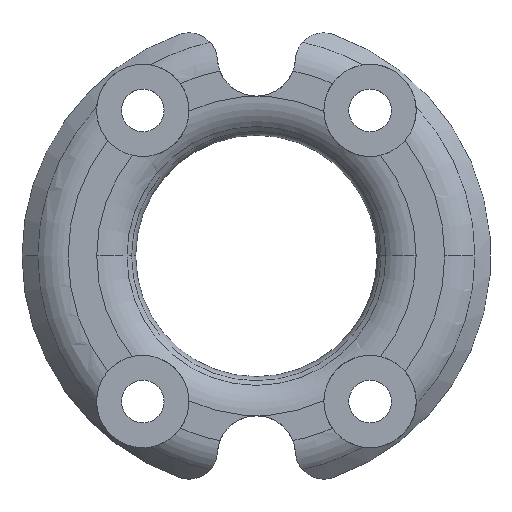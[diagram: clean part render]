
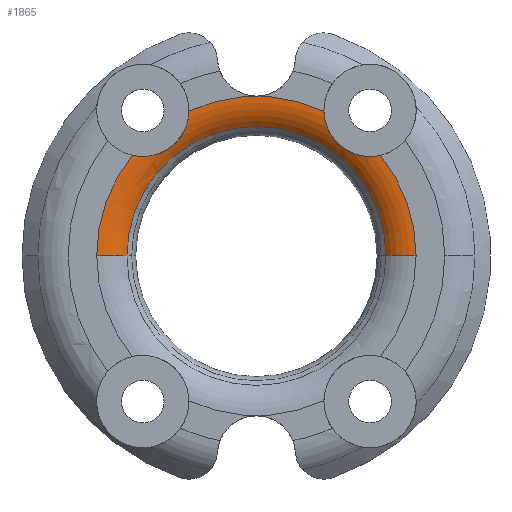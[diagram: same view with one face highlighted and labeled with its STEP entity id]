
A CAD part, top view. The second image highlights one B-rep face of the part: STEP entity #1865.
In plain terms, the highlighted toroidal (fillet/blend) face has major radius 11.243 mm and minor radius 3 mm.
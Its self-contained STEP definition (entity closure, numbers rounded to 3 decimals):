
#23 = CARTESIAN_POINT ( 'NONE',  ( 5.812, 7.841, 4.108 ) ) ;
#81 = ORIENTED_EDGE ( 'NONE', *, *, #293, .F. ) ;
#90 = CARTESIAN_POINT ( 'NONE',  ( 0., 0., 4.5 ) ) ;
#96 = CARTESIAN_POINT ( 'NONE',  ( -8.251, 6.998, 4.476 ) ) ;
#116 = DIRECTION ( 'NONE',  ( 1., 0., 0. ) ) ;
#158 = CARTESIAN_POINT ( 'NONE',  ( -4.902, 9.235, 4.401 ) ) ;
#181 = ORIENTED_EDGE ( 'NONE', *, *, #1620, .F. ) ;
#193 = CARTESIAN_POINT ( 'NONE',  ( 11.243, 0., 4.5 ) ) ;
#208 = AXIS2_PLACEMENT_3D ( 'NONE', #1636, #974, #811 ) ;
#212 = TOROIDAL_SURFACE ( 'NONE', #1793, 11.243, 3. ) ;
#239 = EDGE_CURVE ( 'NONE', #671, #876, #1377, .T. ) ;
#272 = ORIENTED_EDGE ( 'NONE', *, *, #1837, .T. ) ;
#275 = ORIENTED_EDGE ( 'NONE', *, *, #841, .F. ) ;
#281 = ORIENTED_EDGE ( 'NONE', *, *, #239, .F. ) ;
#288 = CARTESIAN_POINT ( 'NONE',  ( -6.196, 7.532, 4.102 ) ) ;
#293 = EDGE_CURVE ( 'NONE', #510, #1229, #962, .T. ) ;
#314 = CARTESIAN_POINT ( 'NONE',  ( 8.733, 7.081, 4.5 ) ) ;
#329 = CARTESIAN_POINT ( 'NONE',  ( -11.243, 0., 1.5 ) ) ;
#368 = CARTESIAN_POINT ( 'NONE',  ( 6.837, 7.202, 4.198 ) ) ;
#388 = CIRCLE ( 'NONE', #1724, 3. ) ;
#390 = CARTESIAN_POINT ( 'NONE',  ( 7.769, 6.996, 4.4 ) ) ;
#440 = CARTESIAN_POINT ( 'NONE',  ( -6.834, 7.204, 4.197 ) ) ;
#446 = CARTESIAN_POINT ( 'NONE',  ( -8.733, 7.081, 4.5 ) ) ;
#473 = DIRECTION ( 'NONE',  ( 0., 0., -1. ) ) ;
#487 = CARTESIAN_POINT ( 'NONE',  ( -5.635, 8.005, 4.124 ) ) ;
#510 = VERTEX_POINT ( 'NONE', #766 ) ;
#512 = DIRECTION ( 'NONE',  ( -1., 0., 0. ) ) ;
#518 = CIRCLE ( 'NONE', #1481, 11.243 ) ;
#521 = CIRCLE ( 'NONE', #1599, 11.243 ) ;
#583 = DIRECTION ( 'NONE',  ( 1., 0., 0. ) ) ;
#605 = CARTESIAN_POINT ( 'NONE',  ( 0., 0., 4.5 ) ) ;
#612 = ORIENTED_EDGE ( 'NONE', *, *, #1279, .F. ) ;
#659 = DIRECTION ( 'NONE',  ( -1., 0., 0. ) ) ;
#671 = VERTEX_POINT ( 'NONE', #2047 ) ;
#693 = CARTESIAN_POINT ( 'NONE',  ( 0., 0., 3.621 ) ) ;
#700 = CARTESIAN_POINT ( 'NONE',  ( 5.905, 7.76, 4.102 ) ) ;
#703 = ORIENTED_EDGE ( 'NONE', *, *, #1120, .F. ) ;
#709 = CARTESIAN_POINT ( 'NONE',  ( 0., 0., 4.5 ) ) ;
#725 = CIRCLE ( 'NONE', #1698, 11.243 ) ;
#727 = CARTESIAN_POINT ( 'NONE',  ( 4.751, 10.19, 4.5 ) ) ;
#756 = AXIS2_PLACEMENT_3D ( 'NONE', #693, #1325, #512 ) ;
#766 = CARTESIAN_POINT ( 'NONE',  ( 4.751, 10.19, 4.5 ) ) ;
#783 = CARTESIAN_POINT ( 'NONE',  ( -7.064, 7.126, 4.248 ) ) ;
#803 = CARTESIAN_POINT ( 'NONE',  ( -5.808, 7.835, 4.102 ) ) ;
#811 = DIRECTION ( 'NONE',  ( 0., 0., -1. ) ) ;
#830 = DIRECTION ( 'NONE',  ( 0., 0., 1. ) ) ;
#841 = EDGE_CURVE ( 'NONE', #1286, #969, #2102, .T. ) ;
#876 = VERTEX_POINT ( 'NONE', #1139 ) ;
#878 = CARTESIAN_POINT ( 'NONE',  ( 4.755, 9.946, 4.5 ) ) ;
#935 = CARTESIAN_POINT ( 'NONE',  ( -7.529, 7.022, 4.349 ) ) ;
#962 = B_SPLINE_CURVE_WITH_KNOTS ( 'NONE', 3,
 ( #727, #878, #1868, #1360, #1209, #1016, #1860, #2030, #1026, #23, #700, #1689, #1380, #368, #1379, #1524, #390, #1536, #1516, #1852 ),
 .UNSPECIFIED., .F., .F.,
 ( 4, 2, 2, 2, 2, 2, 2, 2, 2, 4 ),
 ( 0.001, 0.002, 0.003, 0.003, 0.004, 0.004, 0.005, 0.005, 0.006, 0.007 ),
 .UNSPECIFIED. ) ;
#969 = VERTEX_POINT ( 'NONE', #2027 ) ;
#974 = DIRECTION ( 'NONE',  ( 0., -1., 0. ) ) ;
#999 = EDGE_LOOP ( 'NONE', ( #181, #272, #281, #612, #703, #81, #1447, #275 ) ) ;
#1016 = CARTESIAN_POINT ( 'NONE',  ( 5.199, 8.582, 4.248 ) ) ;
#1026 = CARTESIAN_POINT ( 'NONE',  ( 5.637, 8.012, 4.128 ) ) ;
#1064 = DIRECTION ( 'NONE',  ( 0., 0., -1. ) ) ;
#1120 = EDGE_CURVE ( 'NONE', #1229, #1951, #521, .T. ) ;
#1139 = CARTESIAN_POINT ( 'NONE',  ( -9.121, 0., 3.621 ) ) ;
#1151 = CARTESIAN_POINT ( 'NONE',  ( -11.243, 0., 4.5 ) ) ;
#1164 = CIRCLE ( 'NONE', #208, 3. ) ;
#1209 = CARTESIAN_POINT ( 'NONE',  ( 4.985, 9.01, 4.35 ) ) ;
#1229 = VERTEX_POINT ( 'NONE', #314 ) ;
#1276 = CARTESIAN_POINT ( 'NONE',  ( -6.402, 7.407, 4.125 ) ) ;
#1279 = EDGE_CURVE ( 'NONE', #1951, #671, #1164, .T. ) ;
#1286 = VERTEX_POINT ( 'NONE', #1591 ) ;
#1325 = DIRECTION ( 'NONE',  ( 0., 0., 1. ) ) ;
#1333 = CARTESIAN_POINT ( 'NONE',  ( -4.787, 9.702, 4.476 ) ) ;
#1360 = CARTESIAN_POINT ( 'NONE',  ( 4.903, 9.233, 4.4 ) ) ;
#1377 = CIRCLE ( 'NONE', #756, 9.121 ) ;
#1379 = CARTESIAN_POINT ( 'NONE',  ( 7.064, 7.126, 4.248 ) ) ;
#1380 = CARTESIAN_POINT ( 'NONE',  ( 6.398, 7.409, 4.124 ) ) ;
#1447 = ORIENTED_EDGE ( 'NONE', *, *, #2076, .F. ) ;
#1481 = AXIS2_PLACEMENT_3D ( 'NONE', #605, #473, #116 ) ;
#1487 = CARTESIAN_POINT ( 'NONE',  ( -5.331, 8.378, 4.197 ) ) ;
#1516 = CARTESIAN_POINT ( 'NONE',  ( 8.494, 7.025, 4.5 ) ) ;
#1524 = CARTESIAN_POINT ( 'NONE',  ( 7.528, 7.023, 4.349 ) ) ;
#1532 = DIRECTION ( 'NONE',  ( 0., 0., -1. ) ) ;
#1536 = CARTESIAN_POINT ( 'NONE',  ( 8.25, 6.998, 4.475 ) ) ;
#1591 = CARTESIAN_POINT ( 'NONE',  ( -8.733, 7.081, 4.5 ) ) ;
#1599 = AXIS2_PLACEMENT_3D ( 'NONE', #90, #1064, #583 ) ;
#1620 = EDGE_CURVE ( 'NONE', #2042, #1286, #518, .T. ) ;
#1636 = CARTESIAN_POINT ( 'NONE',  ( 11.243, 0., 1.5 ) ) ;
#1647 = DIRECTION ( 'NONE',  ( 0., 1., 0. ) ) ;
#1657 = DIRECTION ( 'NONE',  ( 1., 0., 0. ) ) ;
#1689 = CARTESIAN_POINT ( 'NONE',  ( 6.192, 7.535, 4.102 ) ) ;
#1698 = AXIS2_PLACEMENT_3D ( 'NONE', #709, #1532, #1700 ) ;
#1700 = DIRECTION ( 'NONE',  ( 1., 0., 0. ) ) ;
#1724 = AXIS2_PLACEMENT_3D ( 'NONE', #329, #1647, #659 ) ;
#1793 = AXIS2_PLACEMENT_3D ( 'NONE', #1973, #830, #1657 ) ;
#1811 = CARTESIAN_POINT ( 'NONE',  ( -4.751, 10.19, 4.5 ) ) ;
#1819 = CARTESIAN_POINT ( 'NONE',  ( -4.986, 9.008, 4.349 ) ) ;
#1837 = EDGE_CURVE ( 'NONE', #2042, #876, #388, .T. ) ;
#1852 = CARTESIAN_POINT ( 'NONE',  ( 8.733, 7.081, 4.5 ) ) ;
#1860 = CARTESIAN_POINT ( 'NONE',  ( 5.329, 8.38, 4.198 ) ) ;
#1865 = ADVANCED_FACE ( 'NONE', ( #2046 ), #212, .T. ) ;
#1868 = CARTESIAN_POINT ( 'NONE',  ( 4.787, 9.701, 4.475 ) ) ;
#1918 = CARTESIAN_POINT ( 'NONE',  ( -7.768, 6.996, 4.4 ) ) ;
#1951 = VERTEX_POINT ( 'NONE', #193 ) ;
#1954 = CARTESIAN_POINT ( 'NONE',  ( -5.199, 8.581, 4.248 ) ) ;
#1973 = CARTESIAN_POINT ( 'NONE',  ( 0., 0., 1.5 ) ) ;
#2027 = CARTESIAN_POINT ( 'NONE',  ( -4.751, 10.19, 4.5 ) ) ;
#2030 = CARTESIAN_POINT ( 'NONE',  ( 5.556, 8.101, 4.143 ) ) ;
#2042 = VERTEX_POINT ( 'NONE', #1151 ) ;
#2046 = FACE_OUTER_BOUND ( 'NONE', #999, .T. ) ;
#2047 = CARTESIAN_POINT ( 'NONE',  ( 9.121, 0., 3.621 ) ) ;
#2076 = EDGE_CURVE ( 'NONE', #969, #510, #725, .T. ) ;
#2085 = CARTESIAN_POINT ( 'NONE',  ( -8.494, 7.025, 4.5 ) ) ;
#2102 = B_SPLINE_CURVE_WITH_KNOTS ( 'NONE', 3,
 ( #446, #2085, #96, #1918, #935, #783, #440, #1276, #288, #803, #487, #1487, #1954, #1819, #158, #1333, #2148, #1811 ),
 .UNSPECIFIED., .F., .F.,
 ( 4, 2, 2, 2, 2, 2, 2, 2, 4 ),
 ( 0.002, 0.003, 0.004, 0.005, 0.005, 0.006, 0.007, 0.007, 0.008 ),
 .UNSPECIFIED. ) ;
#2148 = CARTESIAN_POINT ( 'NONE',  ( -4.755, 9.944, 4.5 ) ) ;
